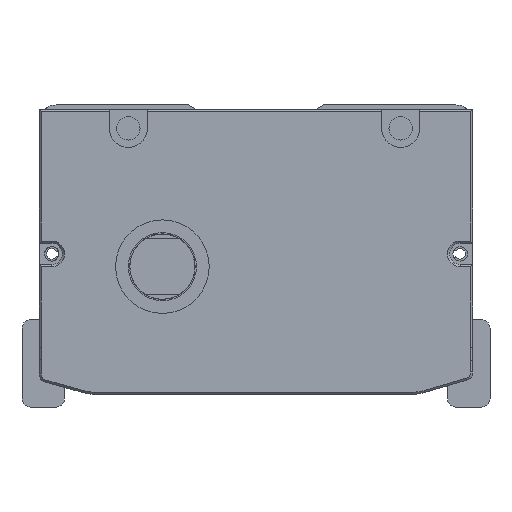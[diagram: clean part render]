
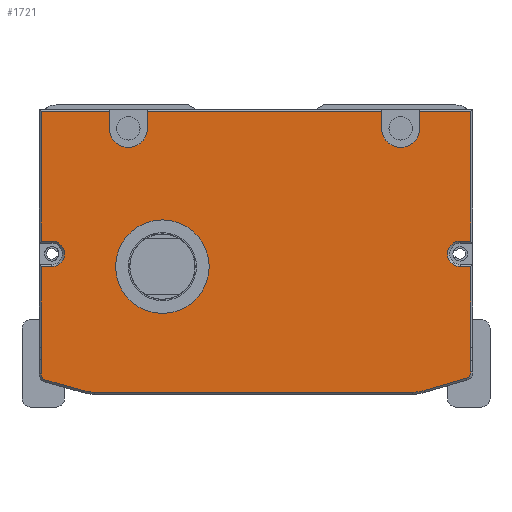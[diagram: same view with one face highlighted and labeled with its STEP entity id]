
A CAD part, front view. The second image highlights one B-rep face of the part: STEP entity #1721.
In plain terms, the highlighted planar face has unit normal (0, -1, 0).
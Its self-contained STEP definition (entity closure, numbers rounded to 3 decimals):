
#1018=FACE_BOUND('',#3599,.T.);
#1019=FACE_BOUND('',#3600,.T.);
#1721=ADVANCED_FACE('',(#1018,#1019),#2434,.F.);
#2434=PLANE('',#14626);
#3599=EDGE_LOOP('',(#6511));
#3600=EDGE_LOOP('',(#6512,#6513,#6514,#6515,#6516,#6517,#6518,#6519,#6520,
#6521,#6522,#6523,#6524,#6525,#6526,#6527,#6528,#6529,#6530,#6531,#6532,
#6533,#6534,#6535,#6536,#6537,#6538,#6539));
#4605=CIRCLE('',#14537,3.);
#4608=CIRCLE('',#14545,3.);
#4611=CIRCLE('',#14557,1.5);
#4613=CIRCLE('',#14561,9.5);
#4615=CIRCLE('',#14565,9.5);
#4617=CIRCLE('',#14569,1.5);
#4622=CIRCLE('',#14584,4.5);
#4626=CIRCLE('',#14590,4.5);
#4627=CIRCLE('',#14599,11.);
#6511=ORIENTED_EDGE('',*,*,#11044,.F.);
#6512=ORIENTED_EDGE('',*,*,#10938,.T.);
#6513=ORIENTED_EDGE('',*,*,#10834,.T.);
#6514=ORIENTED_EDGE('',*,*,#11025,.T.);
#6515=ORIENTED_EDGE('',*,*,#10838,.T.);
#6516=ORIENTED_EDGE('',*,*,#11073,.T.);
#6517=ORIENTED_EDGE('',*,*,#10844,.T.);
#6518=ORIENTED_EDGE('',*,*,#11021,.T.);
#6519=ORIENTED_EDGE('',*,*,#10848,.T.);
#6520=ORIENTED_EDGE('',*,*,#11074,.T.);
#6521=ORIENTED_EDGE('',*,*,#10942,.T.);
#6522=ORIENTED_EDGE('',*,*,#10948,.T.);
#6523=ORIENTED_EDGE('',*,*,#10951,.T.);
#6524=ORIENTED_EDGE('',*,*,#10954,.T.);
#6525=ORIENTED_EDGE('',*,*,#10956,.T.);
#6526=ORIENTED_EDGE('',*,*,#10986,.T.);
#6527=ORIENTED_EDGE('',*,*,#10990,.T.);
#6528=ORIENTED_EDGE('',*,*,#10993,.T.);
#6529=ORIENTED_EDGE('',*,*,#10996,.T.);
#6530=ORIENTED_EDGE('',*,*,#10999,.T.);
#6531=ORIENTED_EDGE('',*,*,#11002,.T.);
#6532=ORIENTED_EDGE('',*,*,#11005,.T.);
#6533=ORIENTED_EDGE('',*,*,#11007,.T.);
#6534=ORIENTED_EDGE('',*,*,#10984,.T.);
#6535=ORIENTED_EDGE('',*,*,#10974,.T.);
#6536=ORIENTED_EDGE('',*,*,#10971,.T.);
#6537=ORIENTED_EDGE('',*,*,#10968,.T.);
#6538=ORIENTED_EDGE('',*,*,#10965,.T.);
#6539=ORIENTED_EDGE('',*,*,#10960,.T.);
#9369=VERTEX_POINT('',#21525);
#9370=VERTEX_POINT('',#21527);
#9373=VERTEX_POINT('',#21534);
#9374=VERTEX_POINT('',#21536);
#9379=VERTEX_POINT('',#21547);
#9380=VERTEX_POINT('',#21549);
#9383=VERTEX_POINT('',#21556);
#9384=VERTEX_POINT('',#21558);
#9442=VERTEX_POINT('',#21744);
#9445=VERTEX_POINT('',#21752);
#9446=VERTEX_POINT('',#21753);
#9451=VERTEX_POINT('',#21764);
#9453=VERTEX_POINT('',#21770);
#9454=VERTEX_POINT('',#21775);
#9456=VERTEX_POINT('',#21781);
#9459=VERTEX_POINT('',#21789);
#9461=VERTEX_POINT('',#21795);
#9463=VERTEX_POINT('',#21801);
#9465=VERTEX_POINT('',#21807);
#9467=VERTEX_POINT('',#21813);
#9474=VERTEX_POINT('',#21837);
#9475=VERTEX_POINT('',#21841);
#9478=VERTEX_POINT('',#21848);
#9480=VERTEX_POINT('',#21854);
#9482=VERTEX_POINT('',#21860);
#9484=VERTEX_POINT('',#21866);
#9486=VERTEX_POINT('',#21872);
#9488=VERTEX_POINT('',#21878);
#9500=VERTEX_POINT('',#21951);
#10834=EDGE_CURVE('',#9370,#9369,#12491,.T.);
#10838=EDGE_CURVE('',#9374,#9373,#12495,.T.);
#10844=EDGE_CURVE('',#9380,#9379,#12501,.T.);
#10848=EDGE_CURVE('',#9384,#9383,#12505,.T.);
#10938=EDGE_CURVE('',#9442,#9370,#12578,.T.);
#10942=EDGE_CURVE('',#9445,#9446,#12582,.T.);
#10948=EDGE_CURVE('',#9446,#9451,#12588,.T.);
#10951=EDGE_CURVE('',#9451,#9453,#4605,.T.);
#10954=EDGE_CURVE('',#9453,#9454,#12592,.T.);
#10956=EDGE_CURVE('',#9454,#9456,#12594,.T.);
#10960=EDGE_CURVE('',#9459,#9442,#12598,.T.);
#10965=EDGE_CURVE('',#9461,#9459,#12603,.T.);
#10968=EDGE_CURVE('',#9463,#9461,#4608,.T.);
#10971=EDGE_CURVE('',#9465,#9463,#12607,.T.);
#10974=EDGE_CURVE('',#9467,#9465,#12610,.T.);
#10984=EDGE_CURVE('',#9474,#9467,#12618,.T.);
#10986=EDGE_CURVE('',#9456,#9475,#12620,.T.);
#10990=EDGE_CURVE('',#9475,#9478,#4611,.T.);
#10993=EDGE_CURVE('',#9478,#9480,#12625,.T.);
#10996=EDGE_CURVE('',#9480,#9482,#4613,.T.);
#10999=EDGE_CURVE('',#9482,#9484,#12629,.T.);
#11002=EDGE_CURVE('',#9484,#9486,#4615,.T.);
#11005=EDGE_CURVE('',#9486,#9488,#12633,.T.);
#11007=EDGE_CURVE('',#9488,#9474,#4617,.T.);
#11021=EDGE_CURVE('',#9379,#9384,#4622,.T.);
#11025=EDGE_CURVE('',#9369,#9374,#4626,.T.);
#11044=EDGE_CURVE('',#9500,#9500,#4627,.T.);
#11073=EDGE_CURVE('',#9373,#9380,#12684,.T.);
#11074=EDGE_CURVE('',#9383,#9445,#12685,.T.);
#12491=LINE('',#21526,#13431);
#12495=LINE('',#21535,#13435);
#12501=LINE('',#21548,#13441);
#12505=LINE('',#21557,#13445);
#12578=LINE('',#21743,#13518);
#12582=LINE('',#21751,#13522);
#12588=LINE('',#21765,#13528);
#12592=LINE('',#21777,#13532);
#12594=LINE('',#21780,#13534);
#12598=LINE('',#21788,#13538);
#12603=LINE('',#21798,#13543);
#12607=LINE('',#21810,#13547);
#12610=LINE('',#21816,#13550);
#12618=LINE('',#21836,#13558);
#12620=LINE('',#21840,#13560);
#12625=LINE('',#21855,#13565);
#12629=LINE('',#21867,#13569);
#12633=LINE('',#21879,#13573);
#12684=LINE('',#22013,#13624);
#12685=LINE('',#22014,#13625);
#13431=VECTOR('',#16759,1.);
#13435=VECTOR('',#16765,1.);
#13441=VECTOR('',#16773,1.);
#13445=VECTOR('',#16779,1.);
#13518=VECTOR('',#16946,1.);
#13522=VECTOR('',#16952,1.);
#13528=VECTOR('',#16960,1.);
#13532=VECTOR('',#16972,1.);
#13534=VECTOR('',#16976,1.);
#13538=VECTOR('',#16982,1.);
#13543=VECTOR('',#16989,1.);
#13547=VECTOR('',#17001,1.);
#13550=VECTOR('',#17006,1.);
#13558=VECTOR('',#17028,1.);
#13560=VECTOR('',#17032,1.);
#13565=VECTOR('',#17045,1.);
#13569=VECTOR('',#17057,1.);
#13573=VECTOR('',#17069,1.);
#13624=VECTOR('',#17236,1.);
#13625=VECTOR('',#17237,1.);
#14537=AXIS2_PLACEMENT_3D('',#21771,#16965,#16966);
#14545=AXIS2_PLACEMENT_3D('',#21804,#16995,#16996);
#14557=AXIS2_PLACEMENT_3D('',#21849,#17038,#17039);
#14561=AXIS2_PLACEMENT_3D('',#21861,#17050,#17051);
#14565=AXIS2_PLACEMENT_3D('',#21873,#17062,#17063);
#14569=AXIS2_PLACEMENT_3D('',#21882,#17073,#17074);
#14584=AXIS2_PLACEMENT_3D('',#21908,#17112,#17113);
#14590=AXIS2_PLACEMENT_3D('',#21916,#17124,#17125);
#14599=AXIS2_PLACEMENT_3D('',#21950,#17160,#17161);
#14626=AXIS2_PLACEMENT_3D('',#22015,#17238,#17239);
#16759=DIRECTION('',(0.,0.,-1.));
#16765=DIRECTION('',(0.,0.,1.));
#16773=DIRECTION('',(0.,0.,-1.));
#16779=DIRECTION('',(0.,0.,1.));
#16946=DIRECTION('',(-1.,0.,0.));
#16952=DIRECTION('',(0.,0.,-1.));
#16960=DIRECTION('',(1.,0.,0.));
#16965=DIRECTION('',(0.,1.,0.));
#16966=DIRECTION('',(0.,0.,1.));
#16972=DIRECTION('',(-1.,0.,0.));
#16976=DIRECTION('',(0.,0.,-1.));
#16982=DIRECTION('',(0.,0.,1.));
#16989=DIRECTION('',(1.,0.,0.));
#16995=DIRECTION('',(0.,1.,0.));
#16996=DIRECTION('',(0.,0.,1.));
#17001=DIRECTION('',(-1.,0.,0.));
#17006=DIRECTION('',(0.,0.,1.));
#17028=DIRECTION('',(0.,0.,1.));
#17032=DIRECTION('',(0.,0.,-1.));
#17038=DIRECTION('',(0.,-1.,0.));
#17039=DIRECTION('',(0.,0.,1.));
#17045=DIRECTION('',(0.963,0.,-0.269));
#17050=DIRECTION('',(0.,-1.,0.));
#17051=DIRECTION('',(0.,0.,1.));
#17057=DIRECTION('',(1.,0.,0.));
#17062=DIRECTION('',(0.,-1.,0.));
#17063=DIRECTION('',(0.,0.,1.));
#17069=DIRECTION('',(0.959,0.,0.282));
#17073=DIRECTION('',(0.,-1.,0.));
#17074=DIRECTION('',(0.,0.,1.));
#17112=DIRECTION('',(0.,1.,0.));
#17113=DIRECTION('',(0.,0.,1.));
#17124=DIRECTION('',(0.,1.,0.));
#17125=DIRECTION('',(0.,0.,1.));
#17160=DIRECTION('',(0.,-1.,0.));
#17161=DIRECTION('',(0.,0.,1.));
#17236=DIRECTION('',(-1.,0.,0.));
#17237=DIRECTION('',(-1.,0.,0.));
#17238=DIRECTION('',(0.,1.,0.));
#17239=DIRECTION('',(1.,0.,0.));
#21525=CARTESIAN_POINT('',(35.308,-207.5,-5.5));
#21526=CARTESIAN_POINT('',(35.308,-207.5,-1.));
#21527=CARTESIAN_POINT('',(35.308,-207.5,-1.5));
#21534=CARTESIAN_POINT('',(26.308,-207.5,-1.5));
#21535=CARTESIAN_POINT('',(26.308,-207.5,-1.));
#21536=CARTESIAN_POINT('',(26.308,-207.5,-5.5));
#21547=CARTESIAN_POINT('',(-28.692,-207.5,-5.5));
#21548=CARTESIAN_POINT('',(-28.692,-207.5,-1.));
#21549=CARTESIAN_POINT('',(-28.692,-207.5,-1.5));
#21556=CARTESIAN_POINT('',(-37.692,-207.5,-1.5));
#21557=CARTESIAN_POINT('',(-37.692,-207.5,-1.));
#21558=CARTESIAN_POINT('',(-37.692,-207.5,-5.5));
#21743=CARTESIAN_POINT('',(-53.692,-207.5,-1.5));
#21744=CARTESIAN_POINT('',(47.308,-207.5,-1.5));
#21751=CARTESIAN_POINT('',(-53.692,-207.5,-32.5));
#21752=CARTESIAN_POINT('',(-53.692,-207.5,-1.5));
#21753=CARTESIAN_POINT('',(-53.692,-207.5,-32.));
#21764=CARTESIAN_POINT('',(-51.192,-207.5,-32.));
#21765=CARTESIAN_POINT('',(-3.192,-207.5,-32.));
#21770=CARTESIAN_POINT('',(-51.192,-207.5,-38.));
#21771=CARTESIAN_POINT('',(-51.192,-207.5,-35.));
#21775=CARTESIAN_POINT('',(-53.692,-207.5,-38.));
#21777=CARTESIAN_POINT('',(-3.192,-207.5,-38.));
#21780=CARTESIAN_POINT('',(-53.692,-207.5,-57.));
#21781=CARTESIAN_POINT('',(-53.692,-207.5,-57.));
#21788=CARTESIAN_POINT('',(47.308,-207.5,-1.5));
#21789=CARTESIAN_POINT('',(47.308,-207.5,-32.));
#21795=CARTESIAN_POINT('',(44.808,-207.5,-32.));
#21798=CARTESIAN_POINT('',(-3.192,-207.5,-32.));
#21801=CARTESIAN_POINT('',(44.808,-207.5,-38.));
#21804=CARTESIAN_POINT('',(44.808,-207.5,-35.));
#21807=CARTESIAN_POINT('',(47.308,-207.5,-38.));
#21810=CARTESIAN_POINT('',(-3.192,-207.5,-38.));
#21813=CARTESIAN_POINT('',(47.308,-207.5,-57.));
#21816=CARTESIAN_POINT('',(47.308,-207.5,-37.5));
#21836=CARTESIAN_POINT('',(47.308,-207.5,-37.5));
#21837=CARTESIAN_POINT('',(47.308,-207.5,-62.758));
#21840=CARTESIAN_POINT('',(-53.692,-207.5,-59.712));
#21841=CARTESIAN_POINT('',(-53.692,-207.5,-63.212));
#21848=CARTESIAN_POINT('',(-52.596,-207.5,-64.657));
#21849=CARTESIAN_POINT('',(-52.192,-207.5,-63.212));
#21854=CARTESIAN_POINT('',(-43.674,-207.5,-67.15));
#21855=CARTESIAN_POINT('',(-43.674,-207.5,-67.15));
#21860=CARTESIAN_POINT('',(-41.118,-207.5,-67.5));
#21861=CARTESIAN_POINT('',(-41.118,-207.5,-58.));
#21866=CARTESIAN_POINT('',(33.631,-207.5,-67.5));
#21867=CARTESIAN_POINT('',(33.631,-207.5,-67.5));
#21872=CARTESIAN_POINT('',(36.312,-207.5,-67.114));
#21873=CARTESIAN_POINT('',(33.631,-207.5,-58.));
#21878=CARTESIAN_POINT('',(46.231,-207.5,-64.197));
#21879=CARTESIAN_POINT('',(46.231,-207.5,-64.197));
#21882=CARTESIAN_POINT('',(45.808,-207.5,-62.758));
#21908=CARTESIAN_POINT('',(-33.192,-207.5,-5.5));
#21916=CARTESIAN_POINT('',(30.808,-207.5,-5.5));
#21950=CARTESIAN_POINT('',(-25.192,-207.5,-38.));
#21951=CARTESIAN_POINT('',(-25.192,-207.5,-27.));
#22013=CARTESIAN_POINT('',(-53.692,-207.5,-1.5));
#22014=CARTESIAN_POINT('',(-53.692,-207.5,-1.5));
#22015=CARTESIAN_POINT('',(-3.192,-207.5,-1.));
